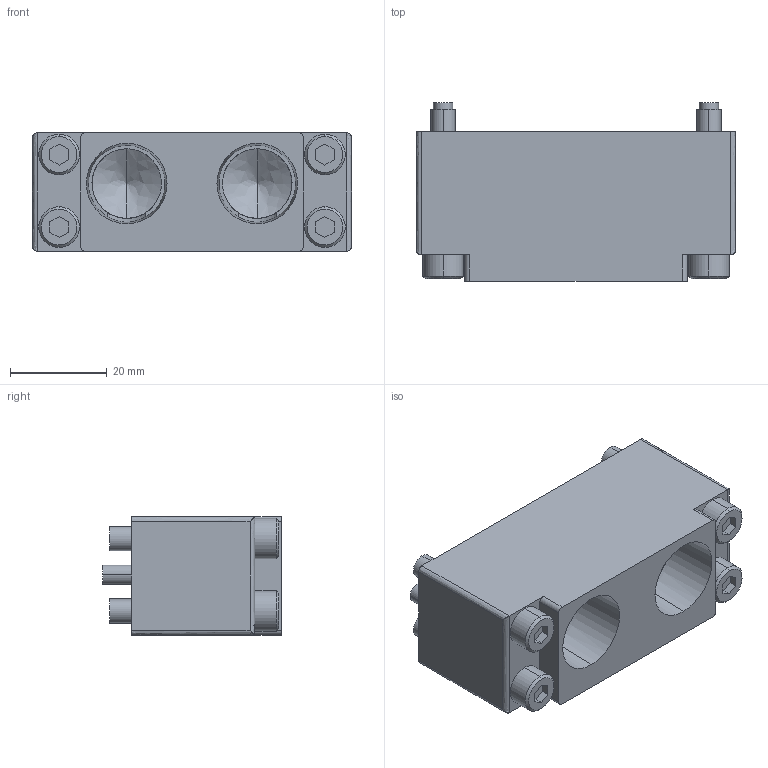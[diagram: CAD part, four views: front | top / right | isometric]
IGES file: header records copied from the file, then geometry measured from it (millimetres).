
Start section: 3D InterOp IGES (v. 2022 1.0.0), Spatial Corp. Copyright (c) 1999-2020.
Global section: file name: KHB-45~300RS-EP102_ver1.igs; native system: Spatial Corp.; preprocessor: 3D InterOp GENERIC/IGES 3.0; author: Noname; organization: Noname; date: 20260427.144153; units: millimetre
Bounding box: 66 x 37 x 24.5 mm (x, y, z)
Surface area: 15434 mm2 (no closed solid volume)
Topology: 0 solids, 0 shells, 135 faces, 644 edges, 640 vertices
Faces by surface type: revolution 75, extrusion 60
